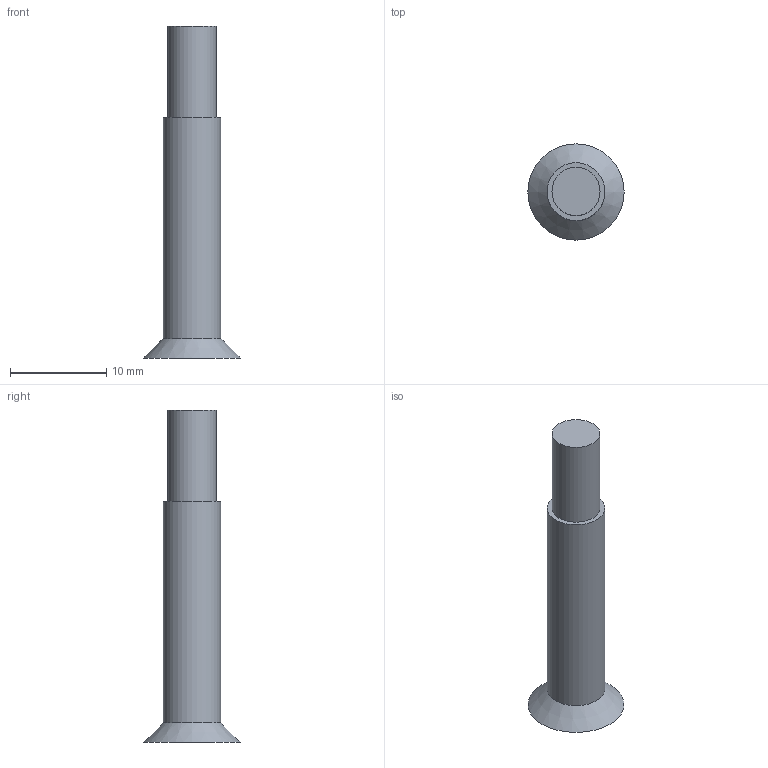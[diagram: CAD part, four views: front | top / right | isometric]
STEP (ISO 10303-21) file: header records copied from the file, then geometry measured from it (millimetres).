
FILE_DESCRIPTION(('Open CASCADE Model'),'2;1');
FILE_NAME('Open CASCADE Shape Model','2026-11-14T14:31:54',('Author'),( 'Open CASCADE'),'Open CASCADE STEP processor 8.0','Open CASCADE 8.0' ,'Unknown');
FILE_SCHEMA(('AUTOMOTIVE_DESIGN { 1 0 10303 214 1 1 1 1 }'));
Length unit declared in the file: millimetre
Products named in the file (1): Open CASCADE STEP translator 8.0 1
Bounding box: 10 x 10 x 34.5 mm (x, y, z)
Volume: 923.9 mm3; surface area: 781.5 mm2
Topology: 1 solids, 1 shells, 13 faces, 26 edges, 17 vertices
Faces by surface type: plane 10, cylinder 2, cone 1
Full cylindrical faces by diameter (mm): 5 x1, 6 x1
Entity records: 672 total; most frequent: CARTESIAN_POINT 122, DIRECTION 98, LINE 56, VECTOR 56, ORIENTED_EDGE 52, PCURVE 52, DEFINITIONAL_REPRESENTATION 52, EDGE_CURVE 26
